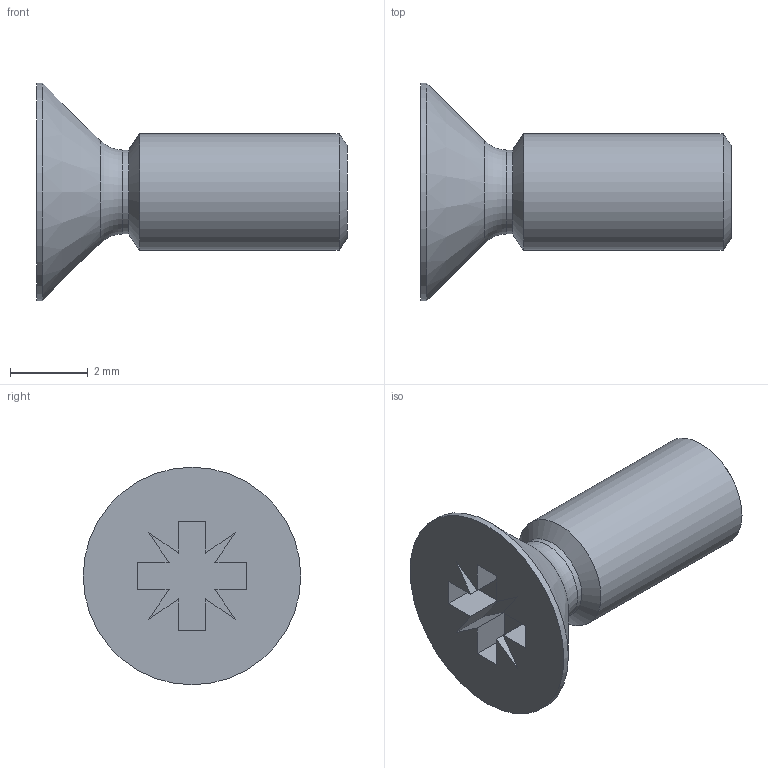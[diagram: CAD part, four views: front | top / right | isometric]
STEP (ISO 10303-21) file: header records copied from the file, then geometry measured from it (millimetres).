
FILE_DESCRIPTION(/* description */ ('Senkschrauben mit Kreuzschlitz M3x8 DIN 965 A Edelstahl A2','CAx-IF Rec.Pracs.---Representation and Presentation of Product Manufacturing Information (PMI)---4.0---2014-10-13'),/* implementation_level */ '2;1');
FILE_NAME(/* name */ 'G:\Alle CAD Daten\CAMTEC_2020_Pack and Go\PSU CPS-i3000 - CPS-i2000\2530279.stp',/* time_stamp */ '2020-09-20T19:33:34+02:00',/* author */ ('rryba'),/* organization */ ('BOSSARD'),/* preprocessor_version */ 'ST-DEVELOPER v18.1',/* originating_system */ 'Autodesk Inventor 2021',/* authorisation */ '');
FILE_SCHEMA (('AP242_MANAGED_MODEL_BASED_3D_ENGINEERING_MIM_LF { 1 0 10303 442 1 1 4 }'));
Length unit declared in the file: millimetre
Products named in the file (1): 2530279
Bounding box: 8 x 5.6 x 5.6 mm (x, y, z)
Volume: 62.5 mm3; surface area: 137 mm2
Topology: 1 solids, 1 shells, 30 faces, 118 edges, 132 vertices
Faces by surface type: plane 23, cone 3, cylinder 3, torus 1
Full cylindrical faces by diameter (mm): 2.161 x1, 3 x1, 5.6 x1
Entity records: 1163 total; most frequent: CARTESIAN_POINT 241, ORIENTED_EDGE 154, DIRECTION 152, EDGE_CURVE 77, LINE 66, VECTOR 66, VERTEX_POINT 50, STYLED_ITEM 47
